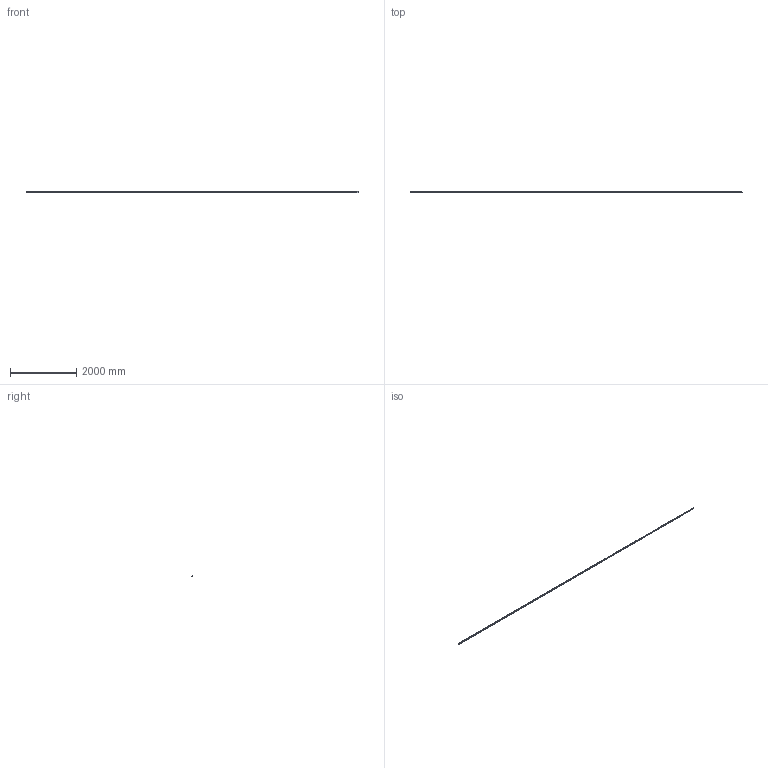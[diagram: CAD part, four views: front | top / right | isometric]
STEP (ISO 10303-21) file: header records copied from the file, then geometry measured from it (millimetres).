
FILE_DESCRIPTION(('STEP AP214'), '1');
FILE_NAME('Áîðäþð_38õ44 L=10ì', '', ('UNSPECIFIED'), ('UNSPECIFIED'), 'ASCON STEP Converter 1.3', 'ASCON Math Kernel', '');
FILE_SCHEMA(('AUTOMOTIVE_DESIGN { 1 0 10303 214 3 1 1}'));
Length unit declared in the file: millimetre
Bounding box: 10000 x 44.2 x 38 mm (x, y, z)
Volume: 1986285.5 mm3; surface area: 1356646.6 mm2
Topology: 1 solids, 1 shells, 1908 faces, 5718 edges, 3812 vertices
Faces by surface type: cylinder 1003, plane 905
Full cylindrical faces by diameter (mm): 17 x166
Entity records: 79235 total; most frequent: CARTESIAN_POINT 15770, ORIENTED_EDGE 11104, DIRECTION 8710, EDGE_CURVE 5552, VERTEX_POINT 3812, LINE 3546, VECTOR 3546, AXIS2_PLACEMENT_3D 2582
